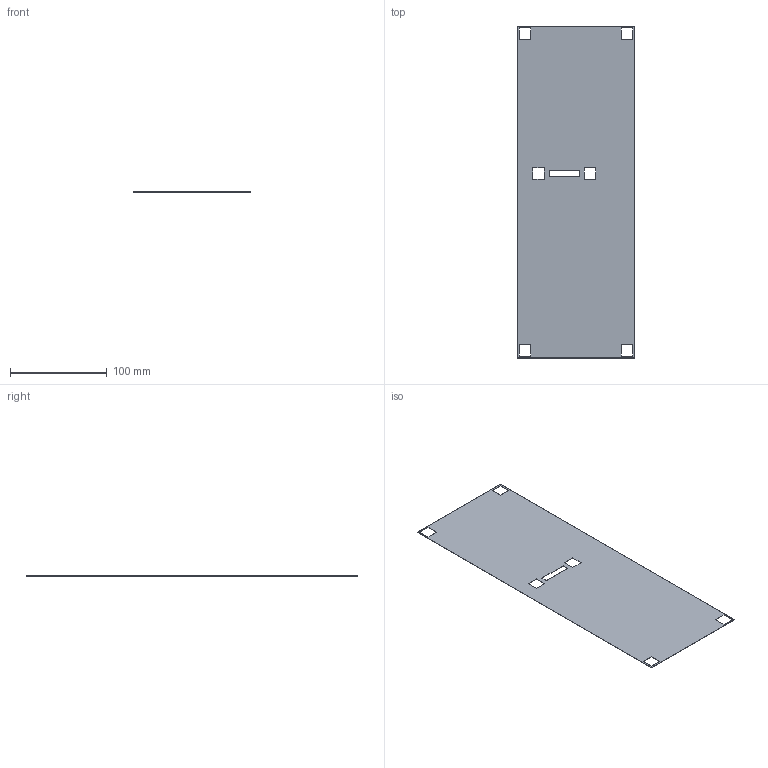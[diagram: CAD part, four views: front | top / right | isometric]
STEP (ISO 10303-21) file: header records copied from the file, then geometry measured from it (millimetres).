
FILE_DESCRIPTION(/* description */ ('','CAx-IF Rec.Pracs.---Representation and Presentation of Product Manufacturing Information (PMI)---4.0---2014-10-13'),/* implementation_level */ '2;1');
FILE_NAME(/* name */ 'G:\Alle CAD Daten\CAMTEC_2021_Pack and Go\PSU CPS-i3000 - CPS-i2000\2061083001.stp',/* time_stamp */ '2020-09-15T19:09:14+02:00',/* author */ ('rryba'),/* organization */ (''),/* preprocessor_version */ 'ST-DEVELOPER v18.1',/* originating_system */ 'Autodesk Inventor 2021',/* authorisation */ '');
FILE_SCHEMA (('AP242_MANAGED_MODEL_BASED_3D_ENGINEERING_MIM_LF { 1 0 10303 442 1 1 4 }'));
Length unit declared in the file: millimetre
Products named in the file (1): 2061083001
Bounding box: 121.4 x 342.5 x 0.3 mm (x, y, z)
Volume: 12155.1 mm3; surface area: 81421.4 mm2
Topology: 1 solids, 1 shells, 34 faces, 128 edges, 128 vertices
Faces by surface type: plane 34
Entity records: 1290 total; most frequent: CARTESIAN_POINT 259, ORIENTED_EDGE 192, DIRECTION 166, LINE 96, VECTOR 96, EDGE_CURVE 96, VERTEX_POINT 64, EDGE_LOOP 48
